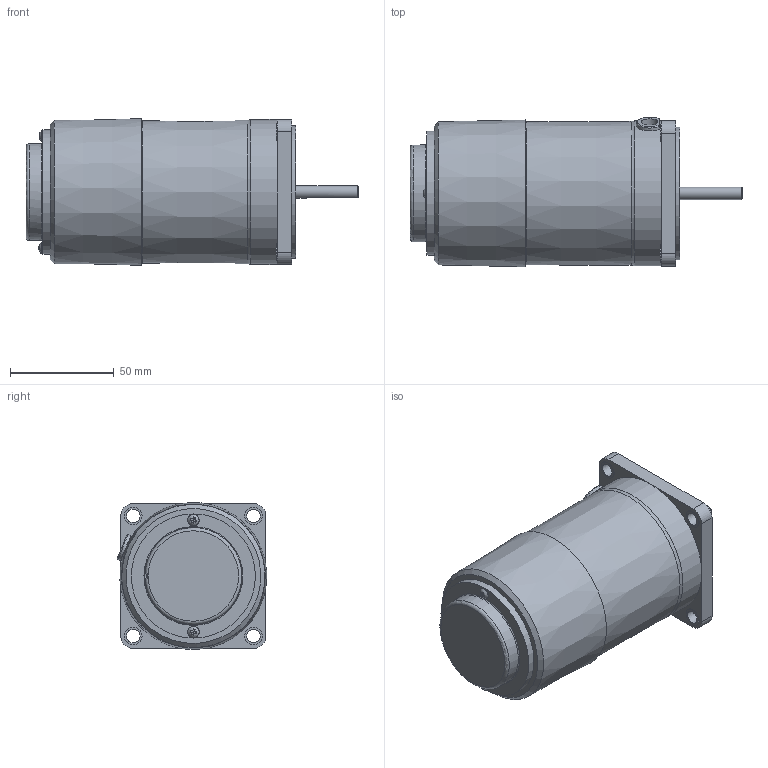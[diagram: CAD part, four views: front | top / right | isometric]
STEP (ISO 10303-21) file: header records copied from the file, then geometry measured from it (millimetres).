
FILE_DESCRIPTION(/* description */ (''),/* implementation_level */ '2;1');
FILE_NAME(/* name */ 'Y:\제품연구개발\3. 도면\3. 고객배포용\3D_홈페이지용\01-1 Standard AC SG Series\05-3 SPEED CONTROL ELECTROMAGNETIC BRAKE MOTOR(ES)\SG7R15_-ES12\SG7R15D-ES.stp',/* time_stamp */ '2023-12-04T09:36:16+09:00',/* author */ ('shyi1037'),/* organization */ (''),/* preprocessor_version */ 'ST-DEVELOPER v18.1',/* originating_system */ 'Autodesk Inventor 2022',/* authorisation */ '');
FILE_SCHEMA (('AUTOMOTIVE_DESIGN { 1 0 10303 214 3 1 1 }'));
Length unit declared in the file: millimetre
Products named in the file (1): SG7R15D-ES
Bounding box: 160.2 x 72.14 x 70.84 mm (x, y, z)
Volume: 470803.5 mm3; surface area: 42254.4 mm2
Topology: 1 solids, 6 shells, 160 faces, 374 edges, 243 vertices
Faces by surface type: plane 98, cylinder 46, torus 9, cone 5, bspline 2
Full cylindrical faces by diameter (mm): 3 x2, 3.5 x2, 5 x1, 5.6 x2, 6 x1, 6.5 x6, 8 x1, 8.5 x4, 10 x1, 28 x1, 44.7 x1, 46.7 x1, 47.7 x1, 59.9 x1, 64 x1, 68 x1, 70 x1
Entity records: 4960 total; most frequent: CARTESIAN_POINT 1133, DIRECTION 797, ORIENTED_EDGE 748, EDGE_CURVE 374, AXIS2_PLACEMENT_3D 305, VERTEX_POINT 243, EDGE_LOOP 191, LINE 187
